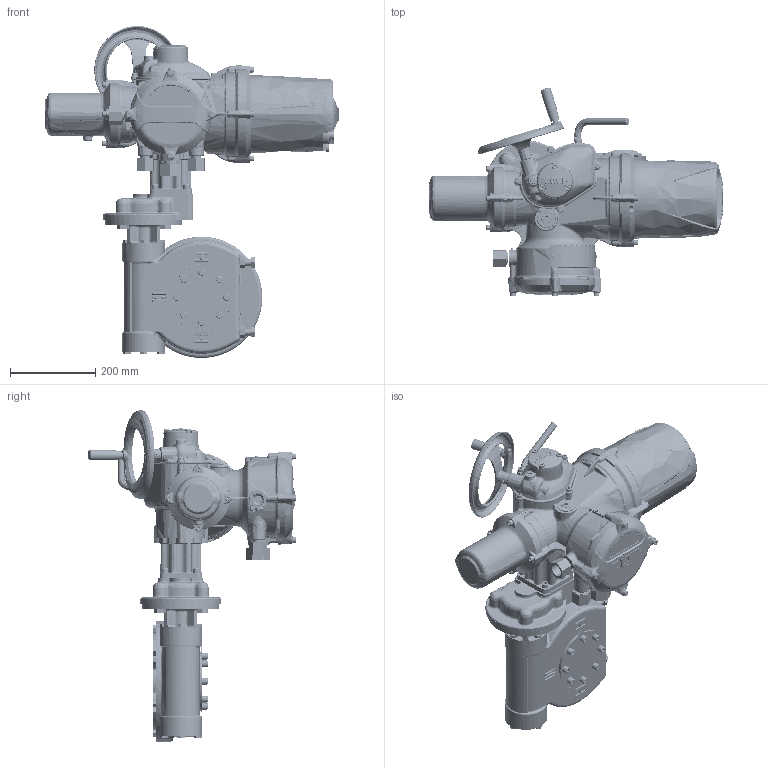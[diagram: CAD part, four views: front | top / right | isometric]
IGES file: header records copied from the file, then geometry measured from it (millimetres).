
Start section: C
Global section: file name: II1SHWIWD5RLSTD-1.igs; native system: By Siemens PLM Incorporated; preprocessor: XPlus GENERIC/IGES 17.0.49; author: Author; organization: Title; date: 20150721.083619; units: millimetre
Bounding box: 692.3 x 489.76 x 780.04 mm (x, y, z)
Surface area: 1261551.5 mm2 (no closed solid volume)
Topology: 0 solids, 0 shells, 8466 faces, 46280 edges, 45834 vertices
Faces by surface type: bspline 8466
